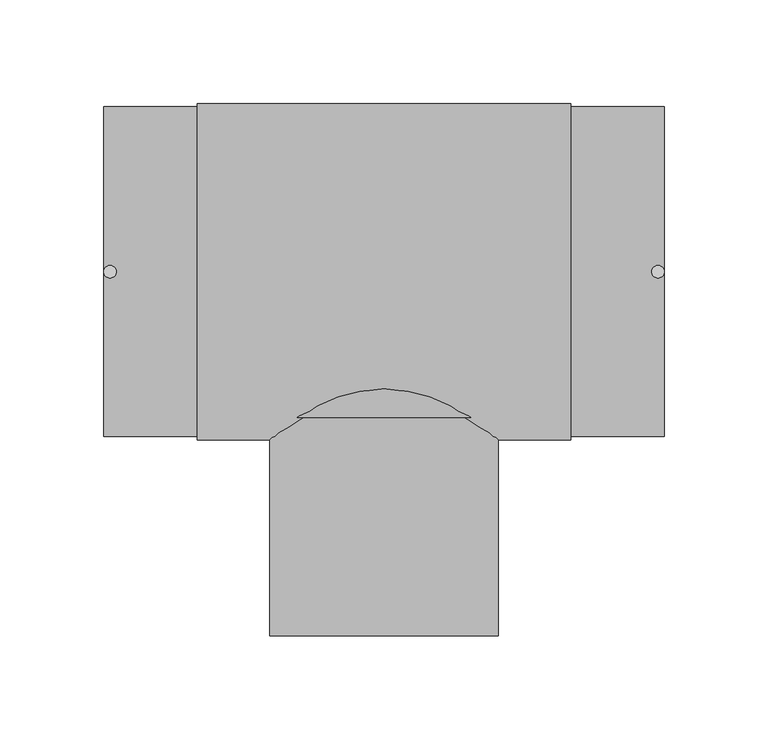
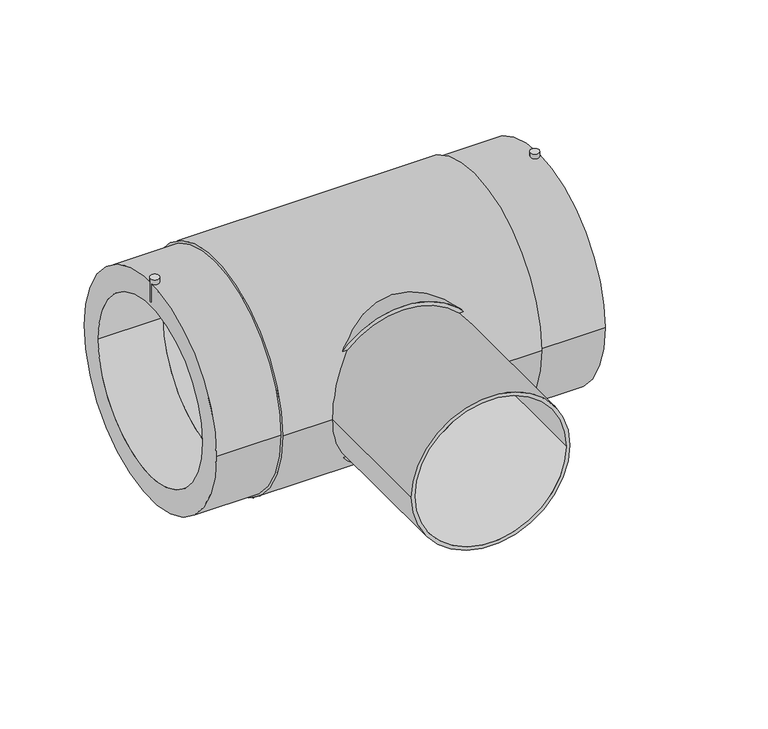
"""IFC4 building model written with IfcOpenShell, lengths in millimetres: pipe fitting geometry, EGB_VASEN_ PPR_Te electrosoldable WXRD300_Te reducida electrosoldable WXRD310 : Te electrosoldable."""

from ifc_helpers import new_model, si_unit, point, frame, frame_2d, origin, origin_2d, place, context, project, spatial, circle_curve, trimmed, segment, composite_curve, outline, extrude, source, transform, mapped, element, save


def pipe_fitting_d6f72fad(model_context):
    return source(origin(), model_context, "Body", "SweptSolid", [
        extrude(outline(composite_curve([segment(trimmed(circle_curve(frame_2d((-132.0, 0.0)), 3.0), [point((-135.0, 0.0))], [point((-129.0, 0.0))], False, "CARTESIAN"), True, "CONTINUOUS"), segment(trimmed(circle_curve(frame_2d((-132.0, 0.0)), 3.0), [point((-129.0, 0.0))], [point((-135.0, 0.0))], False, "CARTESIAN"), True, "CONTINUOUS")], self_intersect=False)), frame((0.0, 0.0, 65.5), z_axis=(0.0, 0.0, 1.0), x_axis=(1.0, 0.0, 0.0)), (0.0, 0.0, 1.0), 17.0),
        extrude(outline(composite_curve([segment(trimmed(circle_curve(frame_2d((132.0, 0.0)), 3.0), [point((129.0, 0.0))], [point((135.0, 0.0))], False, "CARTESIAN"), True, "CONTINUOUS"), segment(trimmed(circle_curve(frame_2d((132.0, 0.0)), 3.0), [point((135.0, 0.0))], [point((129.0, 0.0))], False, "CARTESIAN"), True, "CONTINUOUS")], self_intersect=False)), frame((0.0, 0.0, 65.5), z_axis=(0.0, 0.0, 1.0), x_axis=(1.0, 0.0, 0.0)), (0.0, 0.0, 1.0), 17.0),
        extrude(outline(composite_curve([segment(trimmed(circle_curve(origin_2d(), 57.5), [point((0.0, 57.5))], [point((0.0, -57.5))], False, "CARTESIAN"), True, "CONTINUOUS"), segment(trimmed(circle_curve(origin_2d(), 57.5), [point((0.0, -57.5))], [point((0.0, 57.5))], False, "CARTESIAN"), True, "CONTINUOUS")], self_intersect=False)), frame((0.0, -70.2, 0.0), z_axis=(0.0, 1.0, 0.0), x_axis=(0.0, 0.0, 1.0)), (0.0, 0.0, 1.0), 70.2),
        extrude(outline(composite_curve([segment(trimmed(circle_curve(origin_2d(), 55.0), [point((0.0, -55.0))], [point((0.0, 55.0))], False, "CARTESIAN"), True, "CONTINUOUS"), segment(trimmed(circle_curve(origin_2d(), 55.0), [point((0.0, 55.0))], [point((0.0, -55.0))], False, "CARTESIAN"), True, "CONTINUOUS")], self_intersect=False), holes=[composite_curve([segment(trimmed(circle_curve(origin_2d(), 52.5), [point((0.0, -52.5))], [point((0.0, 52.5))], True, "CARTESIAN"), True, "CONTINUOUS"), segment(trimmed(circle_curve(origin_2d(), 52.5), [point((0.0, 52.5))], [point((0.0, -52.5))], True, "CARTESIAN"), True, "CONTINUOUS")], self_intersect=False)]), frame((0.0, -175.5, 0.0), z_axis=(0.0, 1.0, 0.0), x_axis=(0.0, 0.0, 1.0)), (0.0, 0.0, 1.0), 105.3),
        extrude(outline(composite_curve([segment(trimmed(circle_curve(origin_2d(), 81.0), [point((-81.0, 0.0))], [point((81.0, 0.0))], False, "CARTESIAN"), True, "CONTINUOUS"), segment(trimmed(circle_curve(origin_2d(), 81.0), [point((81.0, 0.0))], [point((-81.0, 0.0))], False, "CARTESIAN"), True, "CONTINUOUS")], self_intersect=False), holes=[composite_curve([segment(trimmed(circle_curve(origin_2d(), 62.5), [point((-62.5, 0.0))], [point((62.5, 0.0))], True, "CARTESIAN"), True, "CONTINUOUS"), segment(trimmed(circle_curve(origin_2d(), 62.5), [point((62.5, 0.0))], [point((-62.5, 0.0))], True, "CARTESIAN"), True, "CONTINUOUS")], self_intersect=False)]), frame((-90.0, 0.0, 0.0), z_axis=(1.0, 0.0, 0.0), x_axis=(0.0, 1.0, 0.0)), (0.0, 0.0, 1.0), 180.0),
        extrude(outline(composite_curve([segment(trimmed(circle_curve(origin_2d(), 79.5), [point((-79.5, 0.0))], [point((79.5, 0.0))], False, "CARTESIAN"), True, "CONTINUOUS"), segment(trimmed(circle_curve(origin_2d(), 79.5), [point((79.5, 0.0))], [point((-79.5, 0.0))], False, "CARTESIAN"), True, "CONTINUOUS")], self_intersect=False), holes=[composite_curve([segment(trimmed(circle_curve(origin_2d(), 62.5), [point((-62.5, 0.0))], [point((62.5, 0.0))], True, "CARTESIAN"), True, "CONTINUOUS"), segment(trimmed(circle_curve(origin_2d(), 62.5), [point((62.5, 0.0))], [point((-62.5, 0.0))], True, "CARTESIAN"), True, "CONTINUOUS")], self_intersect=False)]), frame((-135.0, 0.0, 0.0), z_axis=(1.0, 0.0, 0.0), x_axis=(0.0, 1.0, 0.0)), (0.0, 0.0, 1.0), 270.0),
    ])


if __name__ == "__main__":
    model = new_model("IFC4")
    model_context = context("Model", 3, world=origin())
    ifc_project = project(units=[si_unit("LENGTHUNIT", "METRE", prefix="MILLI")], contexts=[model_context])
    site = spatial("IfcSite", under=ifc_project)
    building = spatial("IfcBuilding", under=site)
    placement = place(None, origin())
    pipe_fitting_shape = pipe_fitting_d6f72fad(model_context)
    element("IfcPipeFitting", 1, ObjectType="EGB_VASEN_ PPR_Te electrosoldable WXRD300_Te reducida electrosoldable WXRD310 : Te electrosoldable", at=placement, inside=building, context=model_context, shape_type="MappedRepresentation", body=[
        mapped(pipe_fitting_shape, transform((0.0, 0.0, 0.0), x_axis=(1.0, 0.0, 0.0), y_axis=(0.0, 1.0, 0.0), z_axis=(0.0, 0.0, 1.0))),
    ])
    save(model, "model.ifc")
